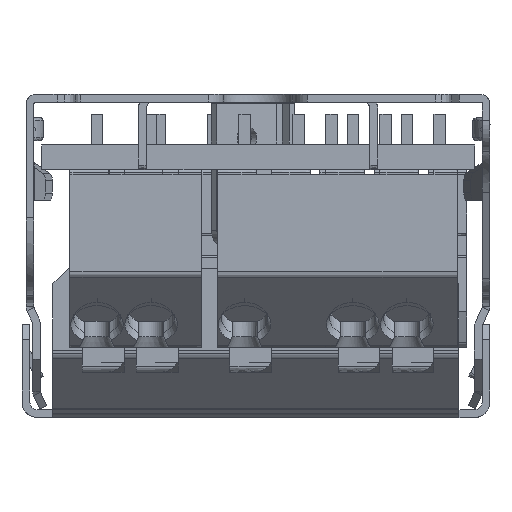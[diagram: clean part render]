
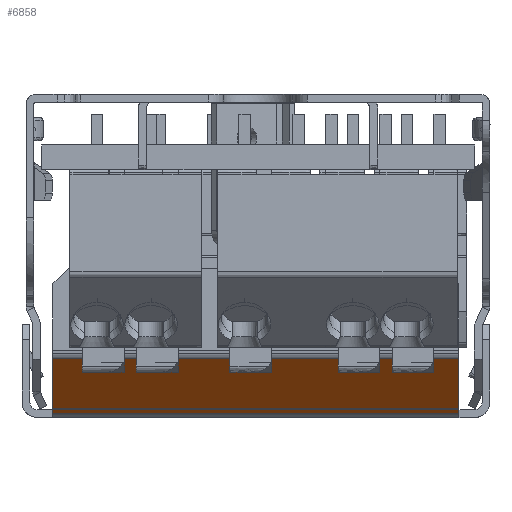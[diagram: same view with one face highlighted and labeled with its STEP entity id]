
A CAD part, front view. The second image highlights one B-rep face of the part: STEP entity #6858.
In plain terms, the highlighted free-form (B-spline) face has degree [1, 1] with [2, 2] control points.
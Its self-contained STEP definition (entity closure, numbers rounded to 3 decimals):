
#228 = CARTESIAN_POINT ( 'NONE',  ( 117.348, 30.37, 275.439 ) ) ;
#2968 = EDGE_CURVE ( 'NONE', #43988, #8565, #9901, .T. ) ;
#3872 = B_SPLINE_SURFACE_WITH_KNOTS ( 'NONE', 1, 1, ( 
 ( #228, #11292 ),
 ( #31381, #31599 ) ),
 .UNSPECIFIED., .F., .F., .F.,
 ( 2, 2 ),
 ( 2, 2 ),
 ( 0., 1. ),
 ( 0., 1. ),
 .UNSPECIFIED. ) ;
#4381 = VERTEX_POINT ( 'NONE', #8859 ) ;
#6858 = ADVANCED_FACE ( 'NONE', ( #17603 ), #3872, .F. ) ;
#7278 = CARTESIAN_POINT ( 'NONE',  ( 117.348, 30.37, 275.439 ) ) ;
#8565 = VERTEX_POINT ( 'NONE', #42799 ) ;
#8859 = CARTESIAN_POINT ( 'NONE',  ( 117.348, 26.816, 278.992 ) ) ;
#9391 = CARTESIAN_POINT ( 'NONE',  ( 143.619, 26.816, 278.992 ) ) ;
#9792 = EDGE_CURVE ( 'NONE', #23865, #8565, #26675, .T. ) ;
#9901 = B_SPLINE_CURVE_WITH_KNOTS ( 'NONE', 3,
 ( #29554, #43571, #43353, #26372 ),
 .UNSPECIFIED., .F., .F.,
 ( 4, 4 ),
 ( 0., 1. ),
 .UNSPECIFIED. ) ;
#10802 = ORIENTED_EDGE ( 'NONE', *, *, #9792, .T. ) ;
#11292 = CARTESIAN_POINT ( 'NONE',  ( 143.619, 30.37, 275.439 ) ) ;
#12149 = CARTESIAN_POINT ( 'NONE',  ( 143.619, 26.816, 278.992 ) ) ;
#14140 = ORIENTED_EDGE ( 'NONE', *, *, #44750, .F. ) ;
#15875 = CARTESIAN_POINT ( 'NONE',  ( 117.348, 26.816, 278.992 ) ) ;
#16194 = CARTESIAN_POINT ( 'NONE',  ( 117.348, 26.816, 278.992 ) ) ;
#17603 = FACE_OUTER_BOUND ( 'NONE', #35064, .T. ) ;
#20375 = B_SPLINE_CURVE_WITH_KNOTS ( 'NONE', 1,
 ( #16194, #9391 ),
 .UNSPECIFIED., .F., .F.,
 ( 2, 2 ),
 ( 0., 1. ),
 .UNSPECIFIED. ) ;
#23865 = VERTEX_POINT ( 'NONE', #28492 ) ;
#24656 = CARTESIAN_POINT ( 'NONE',  ( 143.619, 30.37, 275.439 ) ) ;
#26372 = CARTESIAN_POINT ( 'NONE',  ( 143.619, 30.37, 275.439 ) ) ;
#26675 = B_SPLINE_CURVE_WITH_KNOTS ( 'NONE', 1,
 ( #7278, #24656 ),
 .UNSPECIFIED., .F., .F.,
 ( 2, 2 ),
 ( 0., 1. ),
 .UNSPECIFIED. ) ;
#28492 = CARTESIAN_POINT ( 'NONE',  ( 117.348, 30.37, 275.439 ) ) ;
#29554 = CARTESIAN_POINT ( 'NONE',  ( 143.619, 26.816, 278.992 ) ) ;
#29619 = ORIENTED_EDGE ( 'NONE', *, *, #35686, .T. ) ;
#31381 = CARTESIAN_POINT ( 'NONE',  ( 117.348, 26.816, 278.992 ) ) ;
#31599 = CARTESIAN_POINT ( 'NONE',  ( 143.619, 26.816, 278.992 ) ) ;
#33729 = B_SPLINE_CURVE_WITH_KNOTS ( 'NONE', 1,
 ( #15875, #39374 ),
 .UNSPECIFIED., .F., .F.,
 ( 2, 2 ),
 ( 0., 1. ),
 .UNSPECIFIED. ) ;
#35064 = EDGE_LOOP ( 'NONE', ( #35910, #14140, #29619, #10802 ) ) ;
#35686 = EDGE_CURVE ( 'NONE', #4381, #23865, #33729, .T. ) ;
#35910 = ORIENTED_EDGE ( 'NONE', *, *, #2968, .F. ) ;
#39374 = CARTESIAN_POINT ( 'NONE',  ( 117.348, 30.37, 275.439 ) ) ;
#42799 = CARTESIAN_POINT ( 'NONE',  ( 143.619, 30.37, 275.439 ) ) ;
#43353 = CARTESIAN_POINT ( 'NONE',  ( 143.619, 29.185, 276.623 ) ) ;
#43571 = CARTESIAN_POINT ( 'NONE',  ( 143.619, 28.001, 277.807 ) ) ;
#43988 = VERTEX_POINT ( 'NONE', #12149 ) ;
#44750 = EDGE_CURVE ( 'NONE', #4381, #43988, #20375, .T. ) ;
